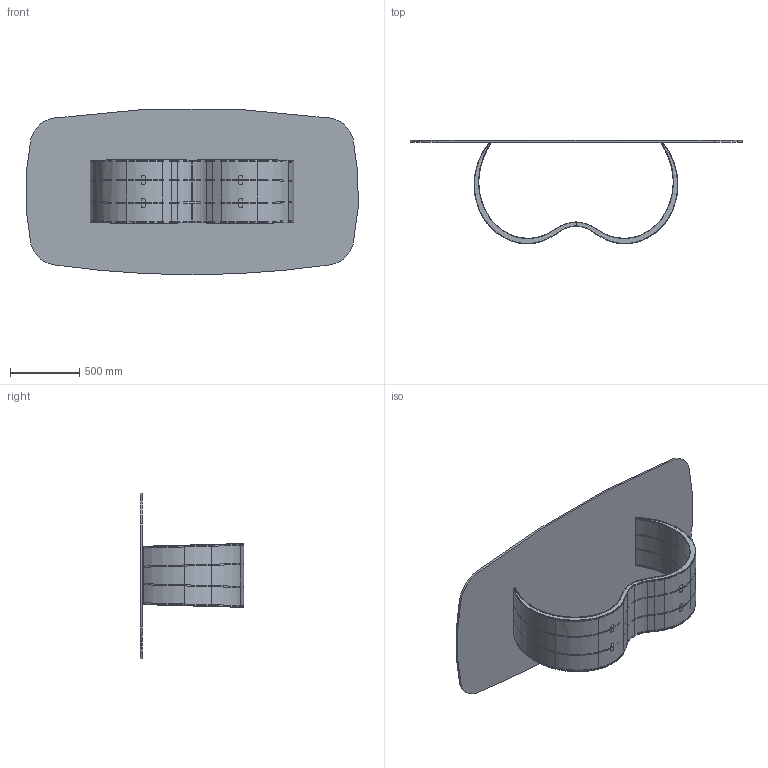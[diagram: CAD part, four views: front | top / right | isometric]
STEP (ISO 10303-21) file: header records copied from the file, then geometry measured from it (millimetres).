
FILE_DESCRIPTION (( 'STEP AP203' ), '1' );
FILE_NAME ('AI43G_Alisei_240x120_Glass Shaped.STEP', '2024-07-31T12:50:48', ( '' ), ( '' ), 'SwSTEP 2.0', 'SolidWorks 2022', '' );
FILE_SCHEMA (( 'CONFIG_CONTROL_DESIGN' ));
Length unit declared in the file: millimetre
Products named in the file (13): ALI000000_03-00-MEZZA COSTOLA ESTERNA_SpecchiaturaDefault; GOMMINO PVC; ALI000001_05-00-APPOGGIO PIANO; ALI000000_02-00-LAMIERA CALANDRATA INTERNA; ALI000000-00-ALISEI BASE METALLO L240 GREZZO; ALI000000_01-00-LAMIERA CALANDRATA ESTERNA; C4XCRXX-00-Piani Sagomati in Cristallo_2400 x 1200; ALI000000_04-00-MEZZA COSTOLA INTERNA_SpecchiaturaSpecchiaturaDefault; ALI000000_04-00-MEZZA COSTOLA INTERNA; ALI000000_03-00-MEZZA COSTOLA ESTERNA; AI43G_Alisei_240x120_Glass Shaped; ALI000000_04-00-MEZZA COSTOLA INTERNA_SpecchiaturaDefault; ALI000000_03-00-MEZZA COSTOLA ESTERNA_SpecchiaturaSpecchiaturaDefault
Assembly tree (18 placements, depth 3):
  AI43G_Alisei_240x120_Glass Shaped
    ALI000000-00-ALISEI BASE METALLO L240 GREZZO
      ALI000000_01-00-LAMIERA CALANDRATA ESTERNA
      ALI000000_02-00-LAMIERA CALANDRATA INTERNA
      ALI000000_03-00-MEZZA COSTOLA ESTERNA
      ALI000000_04-00-MEZZA COSTOLA INTERNA
      ALI000000_03-00-MEZZA COSTOLA ESTERNA_SpecchiaturaDefault  x2
      ALI000000_04-00-MEZZA COSTOLA INTERNA_SpecchiaturaDefault  x2
      ALI000000_03-00-MEZZA COSTOLA ESTERNA_SpecchiaturaSpecchiaturaDefault
      ALI000000_04-00-MEZZA COSTOLA INTERNA_SpecchiaturaSpecchiaturaDefault
      ALI000001_05-00-APPOGGIO PIANO  x2
    GOMMINO PVC  x4
    C4XCRXX-00-Piani Sagomati in Cristallo_2400 x 1200
Bounding box: 2391.62 x 746 x 1192.03 mm (x, y, z)
Volume: 47026177.6 mm3; surface area: 10910759.6 mm2
Topology: 17 solids, 17 shells, 1039 faces, 2879 edges, 1866 vertices
Faces by surface type: bspline 552, plane 322, cylinder 149, torus 16
Entity records: 39741 total; most frequent: CARTESIAN_POINT 20720, ORIENTED_EDGE 4940, EDGE_CURVE 2470, DIRECTION 2170, VERTEX_POINT 1600, LINE 1126, VECTOR 1126, EDGE_LOOP 970
